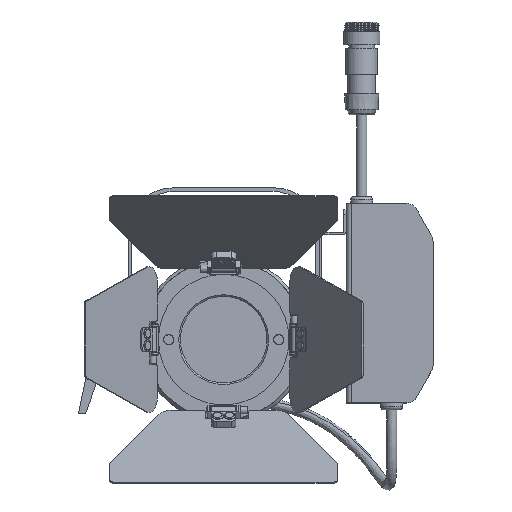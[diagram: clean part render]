
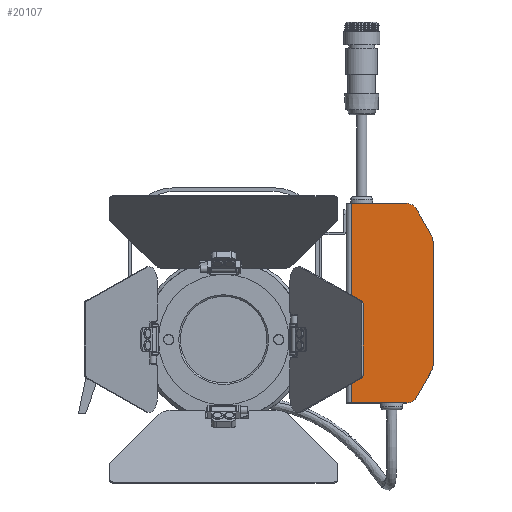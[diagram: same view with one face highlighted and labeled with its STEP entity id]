
A CAD part, top view. The second image highlights one B-rep face of the part: STEP entity #20107.
In plain terms, the highlighted planar face has unit normal (0, 0, 1) as drawn and (0, 0, -1) by its records, which use the part's own axes.
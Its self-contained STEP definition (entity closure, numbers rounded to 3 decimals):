
#759 = CIRCLE ( 'NONE', #42433, 14.862 ) ;
#784 = DIRECTION ( 'NONE',  ( 1., 0., 0. ) ) ;
#788 = CARTESIAN_POINT ( 'NONE',  ( 57.558, -96.804, -32.4 ) ) ;
#1559 = ORIENTED_EDGE ( 'NONE', *, *, #35941, .T. ) ;
#2264 = DIRECTION ( 'NONE',  ( -1., 0., 0. ) ) ;
#2903 = CARTESIAN_POINT ( 'NONE',  ( 42.628, -105.424, -32.4 ) ) ;
#2948 = ORIENTED_EDGE ( 'NONE', *, *, #20540, .T. ) ;
#3555 = CARTESIAN_POINT ( 'NONE',  ( -42.911, -105.424, -32.4 ) ) ;
#3561 = VERTEX_POINT ( 'NONE', #33640 ) ;
#3636 = VERTEX_POINT ( 'NONE', #55902 ) ;
#4204 = DIRECTION ( 'NONE',  ( -0.866, 0.5, 0. ) ) ;
#4793 = CARTESIAN_POINT ( 'NONE',  ( -35.48, -92.553, -32.4 ) ) ;
#5935 = CARTESIAN_POINT ( 'NONE',  ( -61.242, -90.915, -32.4 ) ) ;
#6105 = VECTOR ( 'NONE', #22581, 1000. ) ;
#6612 = LINE ( 'NONE', #25981, #52283 ) ;
#7600 = PLANE ( 'NONE',  #52319 ) ;
#8213 = EDGE_CURVE ( 'NONE', #48261, #34544, #34015, .T. ) ;
#8884 = VERTEX_POINT ( 'NONE', #3555 ) ;
#9607 = VECTOR ( 'NONE', #4204, 1000. ) ;
#11008 = VECTOR ( 'NONE', #27031, 1000. ) ;
#11873 = CARTESIAN_POINT ( 'NONE',  ( 57.558, -96.804, -32.4 ) ) ;
#12140 = DIRECTION ( 'NONE',  ( 1., 0., 0. ) ) ;
#14318 = AXIS2_PLACEMENT_3D ( 'NONE', #4793, #35798, #784 ) ;
#15162 = AXIS2_PLACEMENT_3D ( 'NONE', #38656, #24875, #42640 ) ;
#16376 = EDGE_CURVE ( 'NONE', #29399, #3561, #55372, .T. ) ;
#17226 = VECTOR ( 'NONE', #24300, 1000. ) ;
#20107 = ADVANCED_FACE ( 'NONE', ( #49697 ), #7600, .F. ) ;
#20540 = EDGE_CURVE ( 'NONE', #34544, #37145, #759, .T. ) ;
#21759 = EDGE_CURVE ( 'NONE', #37145, #55564, #55114, .T. ) ;
#22581 = DIRECTION ( 'NONE',  ( -0.866, -0.5, 0. ) ) ;
#23871 = CARTESIAN_POINT ( 'NONE',  ( 35.197, -107.416, -32.4 ) ) ;
#24300 = DIRECTION ( 'NONE',  ( 0., 1., 0. ) ) ;
#24612 = EDGE_CURVE ( 'NONE', #55564, #8884, #33034, .T. ) ;
#24676 = CARTESIAN_POINT ( 'NONE',  ( 60.958, -90.915, -32.4 ) ) ;
#24875 = DIRECTION ( 'NONE',  ( 0., 0., -1. ) ) ;
#25247 = LINE ( 'NONE', #30223, #9607 ) ;
#25981 = CARTESIAN_POINT ( 'NONE',  ( 60.958, -90.915, -32.4 ) ) ;
#26991 = ORIENTED_EDGE ( 'NONE', *, *, #8213, .T. ) ;
#27031 = DIRECTION ( 'NONE',  ( 1., 0., 0. ) ) ;
#27690 = EDGE_CURVE ( 'NONE', #3561, #3636, #40310, .T. ) ;
#28521 = ORIENTED_EDGE ( 'NONE', *, *, #41031, .T. ) ;
#28655 = CARTESIAN_POINT ( 'NONE',  ( -57.842, -96.804, -32.4 ) ) ;
#29010 = DIRECTION ( 'NONE',  ( 0., 0., -1. ) ) ;
#29244 = CARTESIAN_POINT ( 'NONE',  ( -54.442, -90.915, -32.4 ) ) ;
#29399 = VERTEX_POINT ( 'NONE', #5935 ) ;
#30223 = CARTESIAN_POINT ( 'NONE',  ( -42.911, -105.424, -32.4 ) ) ;
#31121 = ORIENTED_EDGE ( 'NONE', *, *, #41551, .T. ) ;
#31552 = VERTEX_POINT ( 'NONE', #28655 ) ;
#31778 = CIRCLE ( 'NONE', #15162, 6.8 ) ;
#32469 = CARTESIAN_POINT ( 'NONE',  ( 35.197, -107.416, -32.4 ) ) ;
#33034 = CIRCLE ( 'NONE', #14318, 14.862 ) ;
#33416 = DIRECTION ( 'NONE',  ( 1., 0., 0. ) ) ;
#33640 = CARTESIAN_POINT ( 'NONE',  ( -61.242, -56.802, -32.4 ) ) ;
#34015 = LINE ( 'NONE', #788, #6105 ) ;
#34544 = VERTEX_POINT ( 'NONE', #2903 ) ;
#34653 = VECTOR ( 'NONE', #2264, 1000. ) ;
#35798 = DIRECTION ( 'NONE',  ( 0., 0., -1. ) ) ;
#35941 = EDGE_CURVE ( 'NONE', #8884, #31552, #25247, .T. ) ;
#37145 = VERTEX_POINT ( 'NONE', #32469 ) ;
#38656 = CARTESIAN_POINT ( 'NONE',  ( 54.158, -90.915, -32.4 ) ) ;
#38926 = VERTEX_POINT ( 'NONE', #24676 ) ;
#40046 = CARTESIAN_POINT ( 'NONE',  ( -54.442, -56.802, -32.4 ) ) ;
#40310 = LINE ( 'NONE', #40046, #11008 ) ;
#41031 = EDGE_CURVE ( 'NONE', #3636, #38926, #6612, .T. ) ;
#41551 = EDGE_CURVE ( 'NONE', #31552, #29399, #44703, .T. ) ;
#41818 = ORIENTED_EDGE ( 'NONE', *, *, #47662, .T. ) ;
#42433 = AXIS2_PLACEMENT_3D ( 'NONE', #55138, #29010, #33416 ) ;
#42640 = DIRECTION ( 'NONE',  ( 1., 0., 0. ) ) ;
#43570 = ORIENTED_EDGE ( 'NONE', *, *, #27690, .T. ) ;
#44703 = CIRCLE ( 'NONE', #51811, 6.8 ) ;
#45495 = CARTESIAN_POINT ( 'NONE',  ( -61.242, -53.802, -32.4 ) ) ;
#46038 = EDGE_LOOP ( 'NONE', ( #55812, #43570, #28521, #41818, #26991, #2948, #46143, #51555, #1559, #31121 ) ) ;
#46143 = ORIENTED_EDGE ( 'NONE', *, *, #21759, .T. ) ;
#46919 = DIRECTION ( 'NONE',  ( 0., 0., -1. ) ) ;
#47491 = DIRECTION ( 'NONE',  ( 1., 0., 0. ) ) ;
#47662 = EDGE_CURVE ( 'NONE', #38926, #48261, #31778, .T. ) ;
#48261 = VERTEX_POINT ( 'NONE', #11873 ) ;
#49664 = CARTESIAN_POINT ( 'NONE',  ( -35.48, -107.416, -32.4 ) ) ;
#49697 = FACE_OUTER_BOUND ( 'NONE', #46038, .T. ) ;
#51555 = ORIENTED_EDGE ( 'NONE', *, *, #24612, .T. ) ;
#51811 = AXIS2_PLACEMENT_3D ( 'NONE', #55875, #46919, #47491 ) ;
#52283 = VECTOR ( 'NONE', #52345, 1000. ) ;
#52319 = AXIS2_PLACEMENT_3D ( 'NONE', #29244, #55200, #12140 ) ;
#52345 = DIRECTION ( 'NONE',  ( 0., -1., 0. ) ) ;
#55114 = LINE ( 'NONE', #23871, #34653 ) ;
#55138 = CARTESIAN_POINT ( 'NONE',  ( 35.197, -92.553, -32.4 ) ) ;
#55200 = DIRECTION ( 'NONE',  ( 0., 0., 1. ) ) ;
#55372 = LINE ( 'NONE', #45495, #17226 ) ;
#55564 = VERTEX_POINT ( 'NONE', #49664 ) ;
#55812 = ORIENTED_EDGE ( 'NONE', *, *, #16376, .T. ) ;
#55875 = CARTESIAN_POINT ( 'NONE',  ( -54.442, -90.915, -32.4 ) ) ;
#55902 = CARTESIAN_POINT ( 'NONE',  ( 60.958, -56.802, -32.4 ) ) ;
